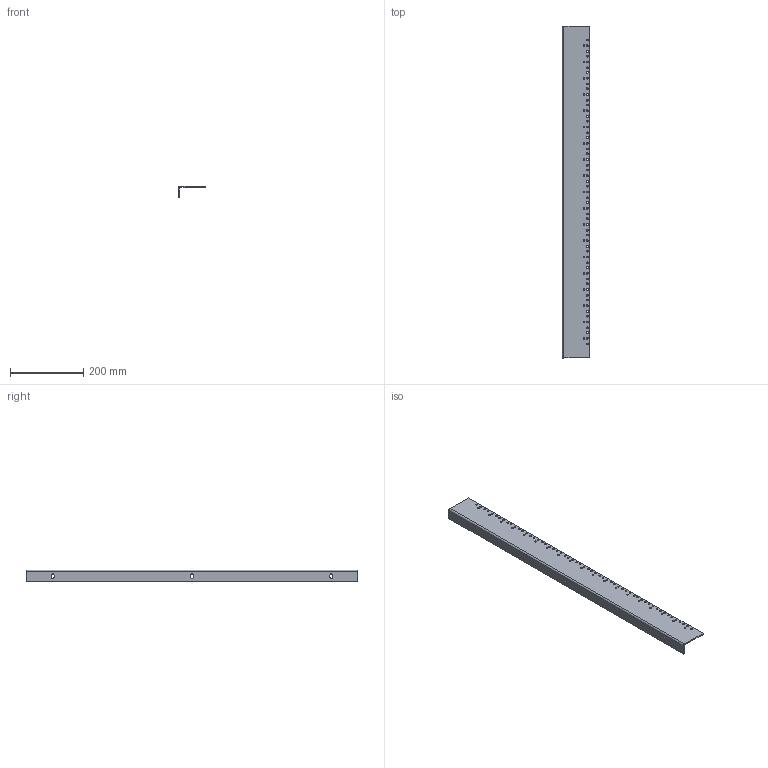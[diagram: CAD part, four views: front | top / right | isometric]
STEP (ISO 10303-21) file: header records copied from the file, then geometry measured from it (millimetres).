
FILE_DESCRIPTION((''),'1');
FILE_NAME('3','2001-04-18T',('jlue'),(''),'PRO/ENGINEER BY PARAMETRIC TECHNOLOGY CORPORATION, 9846','PRO/ENGINEER BY PARAMETRIC TECHNOLOGY CORPORATION, 9846','');
FILE_SCHEMA(('CONFIG_CONTROL_DESIGN'));
Length unit declared in the file: inch
Products named in the file (1): 3
Bounding box: 75.01 x 908.05 x 31.75 mm (x, y, z)
Surface area: 193537.3 mm2 (no closed solid volume)
Topology: 0 solids, 0 shells, 174 faces, 1108 edges, 1184 vertices
Faces by surface type: cylinder 160, plane 14
Entity records: 5734 total; most frequent: DIRECTION 1260, COMPOSITE_CURVE_SEGMENT 1032, CARTESIAN_POINT 766, TRIMMED_CURVE 592, AXIS2_PLACEMENT_3D 494, CIRCLE 320, VECTOR 272, LINE 272
